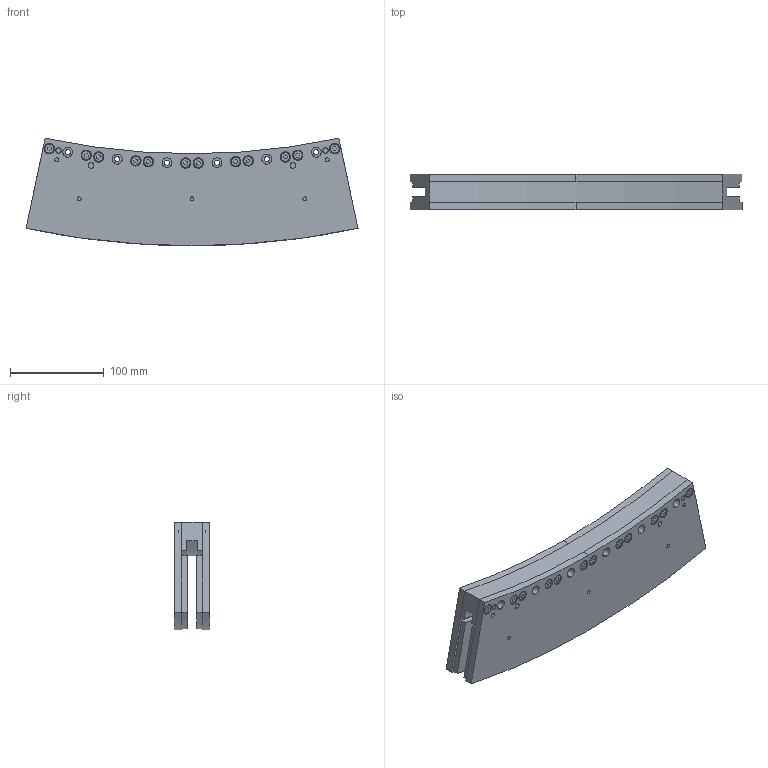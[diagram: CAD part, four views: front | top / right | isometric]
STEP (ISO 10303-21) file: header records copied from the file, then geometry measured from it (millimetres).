
FILE_DESCRIPTION (( 'STEP AP214' ), '1' );
FILE_NAME ('ARCM750-TA024 (CUSTOMER)_defeature.step', '2021-07-23T08:00:58', ( '' ), ( '' ), 'SwSTEP 2.0', 'SolidWorks 2020', '' );
FILE_SCHEMA (( 'AUTOMOTIVE_DESIGN' ));
Length unit declared in the file: millimetre
Products named in the file (1): ARCM750-TA024 (CUSTOMER)_defeature
Bounding box: 353.45 x 38 x 114.43 mm (x, y, z)
Volume: 936060.3 mm3; surface area: 176808.4 mm2
Topology: 1 solids, 41 shells, 724 faces, 1554 edges, 1008 vertices
Faces by surface type: plane 340, cylinder 312, torus 48, cone 24
Entity records: 22561 total; most frequent: DIRECTION 3738, CARTESIAN_POINT 3279, ORIENTED_EDGE 3092, EDGE_CURVE 1546, AXIS2_PLACEMENT_3D 1467, VERTEX_POINT 1008, EDGE_LOOP 888, LINE 804
